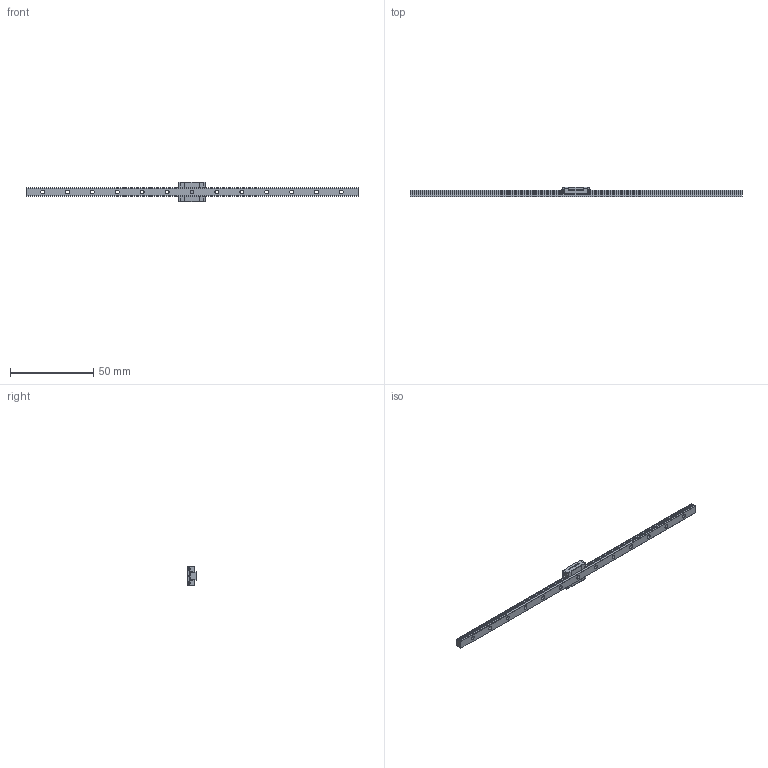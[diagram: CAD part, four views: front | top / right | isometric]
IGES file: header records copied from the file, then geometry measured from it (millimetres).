
Start section: Data from XPlus IGES,  Spatial Corp. Copyright (c) 1999-2004
Global section: file name: SRS5M1UU20010091.55000.igs; native system:  By Spatial Corp.; preprocessor: XPlus ACIS/IGES 3.0; author: Noname; organization: Noname; date: 20161110.140800; units: millimetre
Bounding box: 200 x 6 x 12 mm (x, y, z)
Surface area: 4606.9 mm2 (no closed solid volume)
Topology: 0 solids, 0 shells, 275 faces, 1492 edges, 1488 vertices
Faces by surface type: extrusion 177, revolution 98
